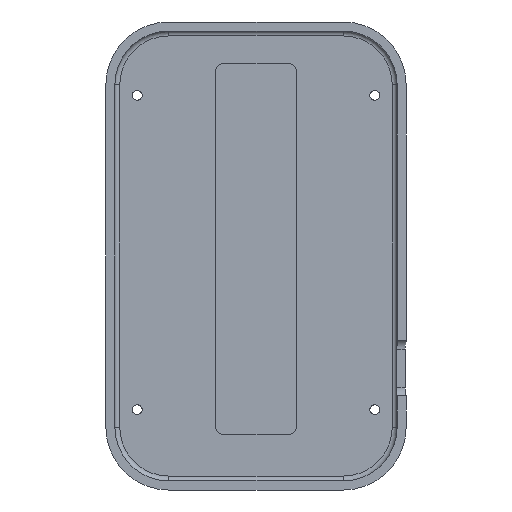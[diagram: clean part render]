
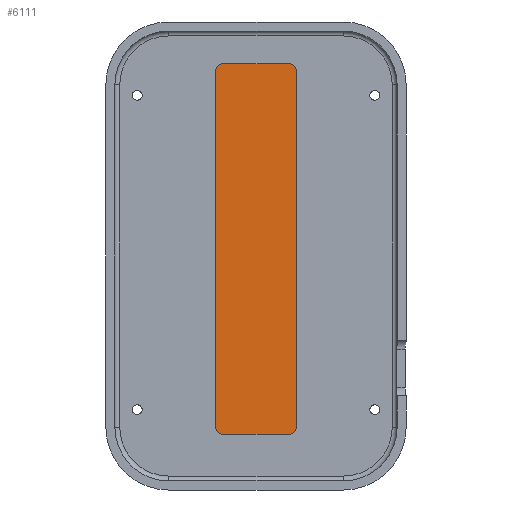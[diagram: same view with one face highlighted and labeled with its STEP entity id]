
A CAD part, top view. The second image highlights one B-rep face of the part: STEP entity #6111.
In plain terms, the highlighted planar face has unit normal (0, 0, 1).
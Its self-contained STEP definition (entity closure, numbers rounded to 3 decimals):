
#5488 = CYLINDRICAL_SURFACE('',#5489,2.);
#5489 = AXIS2_PLACEMENT_3D('',#5490,#5491,#5492);
#5490 = CARTESIAN_POINT('',(-9.5,-49.,-10.95));
#5491 = DIRECTION('',(0.,0.,1.));
#5492 = DIRECTION('',(-1.,-0.,0.));
#5516 = PLANE('',#5517);
#5517 = AXIS2_PLACEMENT_3D('',#5518,#5519,#5520);
#5518 = CARTESIAN_POINT('',(-11.5,-51.,-10.95));
#5519 = DIRECTION('',(1.,0.,0.));
#5520 = DIRECTION('',(0.,0.,1.));
#5545 = CYLINDRICAL_SURFACE('',#5546,2.);
#5546 = AXIS2_PLACEMENT_3D('',#5547,#5548,#5549);
#5547 = CARTESIAN_POINT('',(-9.5,53.,-10.95));
#5548 = DIRECTION('',(0.,0.,1.));
#5549 = DIRECTION('',(-1.,-0.,0.));
#5573 = PLANE('',#5574);
#5574 = AXIS2_PLACEMENT_3D('',#5575,#5576,#5577);
#5575 = CARTESIAN_POINT('',(-11.5,55.,-10.95));
#5576 = DIRECTION('',(0.,1.,0.));
#5577 = DIRECTION('',(0.,-0.,1.));
#5602 = CYLINDRICAL_SURFACE('',#5603,2.);
#5603 = AXIS2_PLACEMENT_3D('',#5604,#5605,#5606);
#5604 = CARTESIAN_POINT('',(9.5,53.,-10.95));
#5605 = DIRECTION('',(0.,0.,1.));
#5606 = DIRECTION('',(1.,0.,-0.));
#5630 = PLANE('',#5631);
#5631 = AXIS2_PLACEMENT_3D('',#5632,#5633,#5634);
#5632 = CARTESIAN_POINT('',(11.5,-51.,-10.95));
#5633 = DIRECTION('',(1.,0.,0.));
#5634 = DIRECTION('',(0.,0.,1.));
#5659 = CYLINDRICAL_SURFACE('',#5660,2.);
#5660 = AXIS2_PLACEMENT_3D('',#5661,#5662,#5663);
#5661 = CARTESIAN_POINT('',(9.5,-49.,-10.95));
#5662 = DIRECTION('',(0.,0.,1.));
#5663 = DIRECTION('',(1.,0.,-0.));
#5685 = PLANE('',#5686);
#5686 = AXIS2_PLACEMENT_3D('',#5687,#5688,#5689);
#5687 = CARTESIAN_POINT('',(-11.5,-51.,-10.95));
#5688 = DIRECTION('',(0.,1.,0.));
#5689 = DIRECTION('',(0.,-0.,1.));
#5707 = VERTEX_POINT('',#5708);
#5708 = CARTESIAN_POINT('',(-11.5,-49.,-10.3));
#5731 = VERTEX_POINT('',#5732);
#5732 = CARTESIAN_POINT('',(-9.5,-51.,-10.3));
#5753 = EDGE_CURVE('',#5707,#5731,#5754,.T.);
#5754 = SURFACE_CURVE('',#5755,(#5760,#5767),.PCURVE_S1.);
#5755 = CIRCLE('',#5756,2.);
#5756 = AXIS2_PLACEMENT_3D('',#5757,#5758,#5759);
#5757 = CARTESIAN_POINT('',(-9.5,-49.,-10.3));
#5758 = DIRECTION('',(0.,0.,1.));
#5759 = DIRECTION('',(0.,-1.,0.));
#5760 = PCURVE('',#5488,#5761);
#5761 = DEFINITIONAL_REPRESENTATION('',(#5762),#5766);
#5762 = LINE('',#5763,#5764);
#5763 = CARTESIAN_POINT('',(-4.712,0.65));
#5764 = VECTOR('',#5765,1.);
#5765 = DIRECTION('',(1.,0.));
#5766 = ( GEOMETRIC_REPRESENTATION_CONTEXT(2) 
PARAMETRIC_REPRESENTATION_CONTEXT() REPRESENTATION_CONTEXT('2D SPACE',''
  ) );
#5767 = PCURVE('',#5768,#5773);
#5768 = PLANE('',#5769);
#5769 = AXIS2_PLACEMENT_3D('',#5770,#5771,#5772);
#5770 = CARTESIAN_POINT('',(-11.5,-51.,-10.3));
#5771 = DIRECTION('',(0.,0.,1.));
#5772 = DIRECTION('',(1.,0.,-0.));
#5773 = DEFINITIONAL_REPRESENTATION('',(#5774),#5778);
#5774 = CIRCLE('',#5775,2.);
#5775 = AXIS2_PLACEMENT_2D('',#5776,#5777);
#5776 = CARTESIAN_POINT('',(2.,2.));
#5777 = DIRECTION('',(0.,-1.));
#5778 = ( GEOMETRIC_REPRESENTATION_CONTEXT(2) 
PARAMETRIC_REPRESENTATION_CONTEXT() REPRESENTATION_CONTEXT('2D SPACE',''
  ) );
#5783 = EDGE_CURVE('',#5707,#5784,#5786,.T.);
#5784 = VERTEX_POINT('',#5785);
#5785 = CARTESIAN_POINT('',(-11.5,53.,-10.3));
#5786 = SURFACE_CURVE('',#5787,(#5791,#5798),.PCURVE_S1.);
#5787 = LINE('',#5788,#5789);
#5788 = CARTESIAN_POINT('',(-11.5,-51.,-10.3));
#5789 = VECTOR('',#5790,1.);
#5790 = DIRECTION('',(0.,1.,0.));
#5791 = PCURVE('',#5516,#5792);
#5792 = DEFINITIONAL_REPRESENTATION('',(#5793),#5797);
#5793 = LINE('',#5794,#5795);
#5794 = CARTESIAN_POINT('',(0.65,0.));
#5795 = VECTOR('',#5796,1.);
#5796 = DIRECTION('',(0.,-1.));
#5797 = ( GEOMETRIC_REPRESENTATION_CONTEXT(2) 
PARAMETRIC_REPRESENTATION_CONTEXT() REPRESENTATION_CONTEXT('2D SPACE',''
  ) );
#5798 = PCURVE('',#5768,#5799);
#5799 = DEFINITIONAL_REPRESENTATION('',(#5800),#5804);
#5800 = LINE('',#5801,#5802);
#5801 = CARTESIAN_POINT('',(0.,0.));
#5802 = VECTOR('',#5803,1.);
#5803 = DIRECTION('',(0.,1.));
#5804 = ( GEOMETRIC_REPRESENTATION_CONTEXT(2) 
PARAMETRIC_REPRESENTATION_CONTEXT() REPRESENTATION_CONTEXT('2D SPACE',''
  ) );
#5832 = EDGE_CURVE('',#5784,#5833,#5835,.T.);
#5833 = VERTEX_POINT('',#5834);
#5834 = CARTESIAN_POINT('',(-9.5,55.,-10.3));
#5835 = SURFACE_CURVE('',#5836,(#5841,#5848),.PCURVE_S1.);
#5836 = CIRCLE('',#5837,2.);
#5837 = AXIS2_PLACEMENT_3D('',#5838,#5839,#5840);
#5838 = CARTESIAN_POINT('',(-9.5,53.,-10.3));
#5839 = DIRECTION('',(-0.,-0.,-1.));
#5840 = DIRECTION('',(0.,-1.,0.));
#5841 = PCURVE('',#5545,#5842);
#5842 = DEFINITIONAL_REPRESENTATION('',(#5843),#5847);
#5843 = LINE('',#5844,#5845);
#5844 = CARTESIAN_POINT('',(7.854,0.65));
#5845 = VECTOR('',#5846,1.);
#5846 = DIRECTION('',(-1.,0.));
#5847 = ( GEOMETRIC_REPRESENTATION_CONTEXT(2) 
PARAMETRIC_REPRESENTATION_CONTEXT() REPRESENTATION_CONTEXT('2D SPACE',''
  ) );
#5848 = PCURVE('',#5768,#5849);
#5849 = DEFINITIONAL_REPRESENTATION('',(#5850),#5858);
#5850 = ( BOUNDED_CURVE() B_SPLINE_CURVE(2,(#5851,#5852,#5853,#5854,
#5855,#5856,#5857),.UNSPECIFIED.,.T.,.F.) B_SPLINE_CURVE_WITH_KNOTS((1,2
    ,2,2,2,1),(-2.094,0.,2.094,4.189,
6.283,8.378),.UNSPECIFIED.) CURVE() 
GEOMETRIC_REPRESENTATION_ITEM() RATIONAL_B_SPLINE_CURVE((1.,0.5,1.,0.5,
1.,0.5,1.)) REPRESENTATION_ITEM('') );
#5851 = CARTESIAN_POINT('',(2.,102.));
#5852 = CARTESIAN_POINT('',(-1.464,102.));
#5853 = CARTESIAN_POINT('',(0.268,105.));
#5854 = CARTESIAN_POINT('',(2.,108.));
#5855 = CARTESIAN_POINT('',(3.732,105.));
#5856 = CARTESIAN_POINT('',(5.464,102.));
#5857 = CARTESIAN_POINT('',(2.,102.));
#5858 = ( GEOMETRIC_REPRESENTATION_CONTEXT(2) 
PARAMETRIC_REPRESENTATION_CONTEXT() REPRESENTATION_CONTEXT('2D SPACE',''
  ) );
#5888 = EDGE_CURVE('',#5833,#5889,#5891,.T.);
#5889 = VERTEX_POINT('',#5890);
#5890 = CARTESIAN_POINT('',(9.5,55.,-10.3));
#5891 = SURFACE_CURVE('',#5892,(#5896,#5903),.PCURVE_S1.);
#5892 = LINE('',#5893,#5894);
#5893 = CARTESIAN_POINT('',(-11.5,55.,-10.3));
#5894 = VECTOR('',#5895,1.);
#5895 = DIRECTION('',(1.,0.,0.));
#5896 = PCURVE('',#5573,#5897);
#5897 = DEFINITIONAL_REPRESENTATION('',(#5898),#5902);
#5898 = LINE('',#5899,#5900);
#5899 = CARTESIAN_POINT('',(0.65,0.));
#5900 = VECTOR('',#5901,1.);
#5901 = DIRECTION('',(0.,1.));
#5902 = ( GEOMETRIC_REPRESENTATION_CONTEXT(2) 
PARAMETRIC_REPRESENTATION_CONTEXT() REPRESENTATION_CONTEXT('2D SPACE',''
  ) );
#5903 = PCURVE('',#5768,#5904);
#5904 = DEFINITIONAL_REPRESENTATION('',(#5905),#5909);
#5905 = LINE('',#5906,#5907);
#5906 = CARTESIAN_POINT('',(0.,106.));
#5907 = VECTOR('',#5908,1.);
#5908 = DIRECTION('',(1.,0.));
#5909 = ( GEOMETRIC_REPRESENTATION_CONTEXT(2) 
PARAMETRIC_REPRESENTATION_CONTEXT() REPRESENTATION_CONTEXT('2D SPACE',''
  ) );
#5936 = VERTEX_POINT('',#5937);
#5937 = CARTESIAN_POINT('',(11.5,53.,-10.3));
#5960 = EDGE_CURVE('',#5936,#5889,#5961,.T.);
#5961 = SURFACE_CURVE('',#5962,(#5967,#5974),.PCURVE_S1.);
#5962 = CIRCLE('',#5963,2.);
#5963 = AXIS2_PLACEMENT_3D('',#5964,#5965,#5966);
#5964 = CARTESIAN_POINT('',(9.5,53.,-10.3));
#5965 = DIRECTION('',(0.,0.,1.));
#5966 = DIRECTION('',(0.,-1.,0.));
#5967 = PCURVE('',#5602,#5968);
#5968 = DEFINITIONAL_REPRESENTATION('',(#5969),#5973);
#5969 = LINE('',#5970,#5971);
#5970 = CARTESIAN_POINT('',(-1.571,0.65));
#5971 = VECTOR('',#5972,1.);
#5972 = DIRECTION('',(1.,0.));
#5973 = ( GEOMETRIC_REPRESENTATION_CONTEXT(2) 
PARAMETRIC_REPRESENTATION_CONTEXT() REPRESENTATION_CONTEXT('2D SPACE',''
  ) );
#5974 = PCURVE('',#5768,#5975);
#5975 = DEFINITIONAL_REPRESENTATION('',(#5976),#5980);
#5976 = CIRCLE('',#5977,2.);
#5977 = AXIS2_PLACEMENT_2D('',#5978,#5979);
#5978 = CARTESIAN_POINT('',(21.,104.));
#5979 = DIRECTION('',(0.,-1.));
#5980 = ( GEOMETRIC_REPRESENTATION_CONTEXT(2) 
PARAMETRIC_REPRESENTATION_CONTEXT() REPRESENTATION_CONTEXT('2D SPACE',''
  ) );
#5985 = EDGE_CURVE('',#5986,#5936,#5988,.T.);
#5986 = VERTEX_POINT('',#5987);
#5987 = CARTESIAN_POINT('',(11.5,-49.,-10.3));
#5988 = SURFACE_CURVE('',#5989,(#5993,#6000),.PCURVE_S1.);
#5989 = LINE('',#5990,#5991);
#5990 = CARTESIAN_POINT('',(11.5,-51.,-10.3));
#5991 = VECTOR('',#5992,1.);
#5992 = DIRECTION('',(0.,1.,0.));
#5993 = PCURVE('',#5630,#5994);
#5994 = DEFINITIONAL_REPRESENTATION('',(#5995),#5999);
#5995 = LINE('',#5996,#5997);
#5996 = CARTESIAN_POINT('',(0.65,0.));
#5997 = VECTOR('',#5998,1.);
#5998 = DIRECTION('',(0.,-1.));
#5999 = ( GEOMETRIC_REPRESENTATION_CONTEXT(2) 
PARAMETRIC_REPRESENTATION_CONTEXT() REPRESENTATION_CONTEXT('2D SPACE',''
  ) );
#6000 = PCURVE('',#5768,#6001);
#6001 = DEFINITIONAL_REPRESENTATION('',(#6002),#6006);
#6002 = LINE('',#6003,#6004);
#6003 = CARTESIAN_POINT('',(23.,0.));
#6004 = VECTOR('',#6005,1.);
#6005 = DIRECTION('',(0.,1.));
#6006 = ( GEOMETRIC_REPRESENTATION_CONTEXT(2) 
PARAMETRIC_REPRESENTATION_CONTEXT() REPRESENTATION_CONTEXT('2D SPACE',''
  ) );
#6034 = EDGE_CURVE('',#5986,#6035,#6037,.T.);
#6035 = VERTEX_POINT('',#6036);
#6036 = CARTESIAN_POINT('',(9.5,-51.,-10.3));
#6037 = SURFACE_CURVE('',#6038,(#6043,#6050),.PCURVE_S1.);
#6038 = CIRCLE('',#6039,2.);
#6039 = AXIS2_PLACEMENT_3D('',#6040,#6041,#6042);
#6040 = CARTESIAN_POINT('',(9.5,-49.,-10.3));
#6041 = DIRECTION('',(-0.,-0.,-1.));
#6042 = DIRECTION('',(0.,-1.,0.));
#6043 = PCURVE('',#5659,#6044);
#6044 = DEFINITIONAL_REPRESENTATION('',(#6045),#6049);
#6045 = LINE('',#6046,#6047);
#6046 = CARTESIAN_POINT('',(10.996,0.65));
#6047 = VECTOR('',#6048,1.);
#6048 = DIRECTION('',(-1.,0.));
#6049 = ( GEOMETRIC_REPRESENTATION_CONTEXT(2) 
PARAMETRIC_REPRESENTATION_CONTEXT() REPRESENTATION_CONTEXT('2D SPACE',''
  ) );
#6050 = PCURVE('',#5768,#6051);
#6051 = DEFINITIONAL_REPRESENTATION('',(#6052),#6060);
#6052 = ( BOUNDED_CURVE() B_SPLINE_CURVE(2,(#6053,#6054,#6055,#6056,
#6057,#6058,#6059),.UNSPECIFIED.,.T.,.F.) B_SPLINE_CURVE_WITH_KNOTS((1,2
    ,2,2,2,1),(-2.094,0.,2.094,4.189,
6.283,8.378),.UNSPECIFIED.) CURVE() 
GEOMETRIC_REPRESENTATION_ITEM() RATIONAL_B_SPLINE_CURVE((1.,0.5,1.,0.5,
1.,0.5,1.)) REPRESENTATION_ITEM('') );
#6053 = CARTESIAN_POINT('',(21.,0.));
#6054 = CARTESIAN_POINT('',(17.536,0.));
#6055 = CARTESIAN_POINT('',(19.268,3.));
#6056 = CARTESIAN_POINT('',(21.,6.));
#6057 = CARTESIAN_POINT('',(22.732,3.));
#6058 = CARTESIAN_POINT('',(24.464,0.));
#6059 = CARTESIAN_POINT('',(21.,0.));
#6060 = ( GEOMETRIC_REPRESENTATION_CONTEXT(2) 
PARAMETRIC_REPRESENTATION_CONTEXT() REPRESENTATION_CONTEXT('2D SPACE',''
  ) );
#6090 = EDGE_CURVE('',#5731,#6035,#6091,.T.);
#6091 = SURFACE_CURVE('',#6092,(#6096,#6103),.PCURVE_S1.);
#6092 = LINE('',#6093,#6094);
#6093 = CARTESIAN_POINT('',(-11.5,-51.,-10.3));
#6094 = VECTOR('',#6095,1.);
#6095 = DIRECTION('',(1.,0.,0.));
#6096 = PCURVE('',#5685,#6097);
#6097 = DEFINITIONAL_REPRESENTATION('',(#6098),#6102);
#6098 = LINE('',#6099,#6100);
#6099 = CARTESIAN_POINT('',(0.65,0.));
#6100 = VECTOR('',#6101,1.);
#6101 = DIRECTION('',(0.,1.));
#6102 = ( GEOMETRIC_REPRESENTATION_CONTEXT(2) 
PARAMETRIC_REPRESENTATION_CONTEXT() REPRESENTATION_CONTEXT('2D SPACE',''
  ) );
#6103 = PCURVE('',#5768,#6104);
#6104 = DEFINITIONAL_REPRESENTATION('',(#6105),#6109);
#6105 = LINE('',#6106,#6107);
#6106 = CARTESIAN_POINT('',(0.,0.));
#6107 = VECTOR('',#6108,1.);
#6108 = DIRECTION('',(1.,0.));
#6109 = ( GEOMETRIC_REPRESENTATION_CONTEXT(2) 
PARAMETRIC_REPRESENTATION_CONTEXT() REPRESENTATION_CONTEXT('2D SPACE',''
  ) );
#6111 = ADVANCED_FACE('',(#6112),#5768,.T.);
#6112 = FACE_BOUND('',#6113,.T.);
#6113 = EDGE_LOOP('',(#6114,#6115,#6116,#6117,#6118,#6119,#6120,#6121));
#6114 = ORIENTED_EDGE('',*,*,#5783,.F.);
#6115 = ORIENTED_EDGE('',*,*,#5753,.T.);
#6116 = ORIENTED_EDGE('',*,*,#6090,.T.);
#6117 = ORIENTED_EDGE('',*,*,#6034,.F.);
#6118 = ORIENTED_EDGE('',*,*,#5985,.T.);
#6119 = ORIENTED_EDGE('',*,*,#5960,.T.);
#6120 = ORIENTED_EDGE('',*,*,#5888,.F.);
#6121 = ORIENTED_EDGE('',*,*,#5832,.F.);
